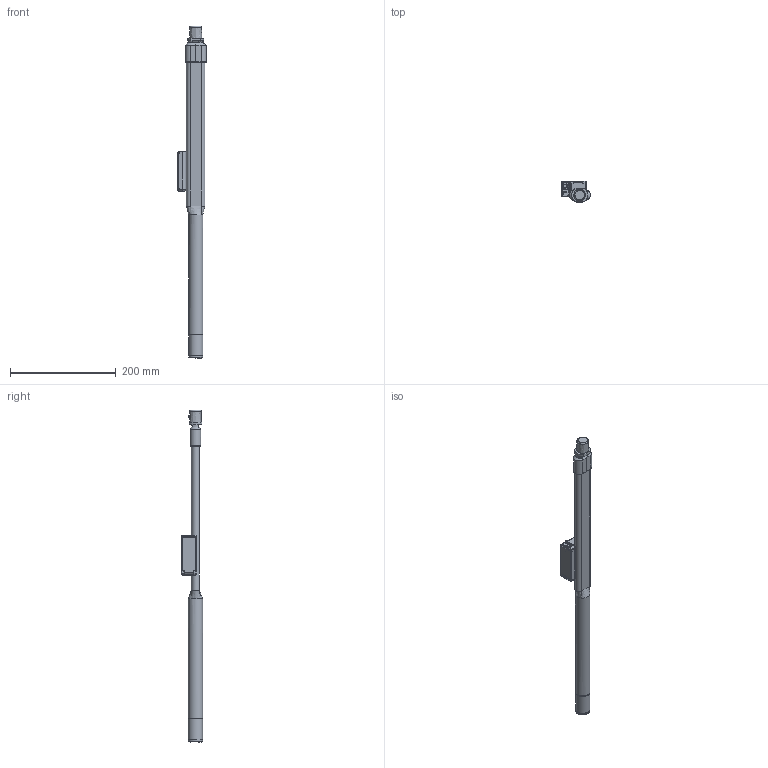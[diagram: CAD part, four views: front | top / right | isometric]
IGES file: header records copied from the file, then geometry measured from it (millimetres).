
Global section: file name: CSPFD280N3X22D; native system: Autodesk Inventor 2017; preprocessor: unknown; author: Q600; date: 20160725.095309; units: millimetre
Bounding box: 53.98 x 40.1 x 627 mm (x, y, z)
Volume: 359222 mm3; surface area: 78881.7 mm2
Topology: 2 solids, 2 shells, 677 faces, 1745 edges, 1050 vertices
Faces by surface type: bspline 677
